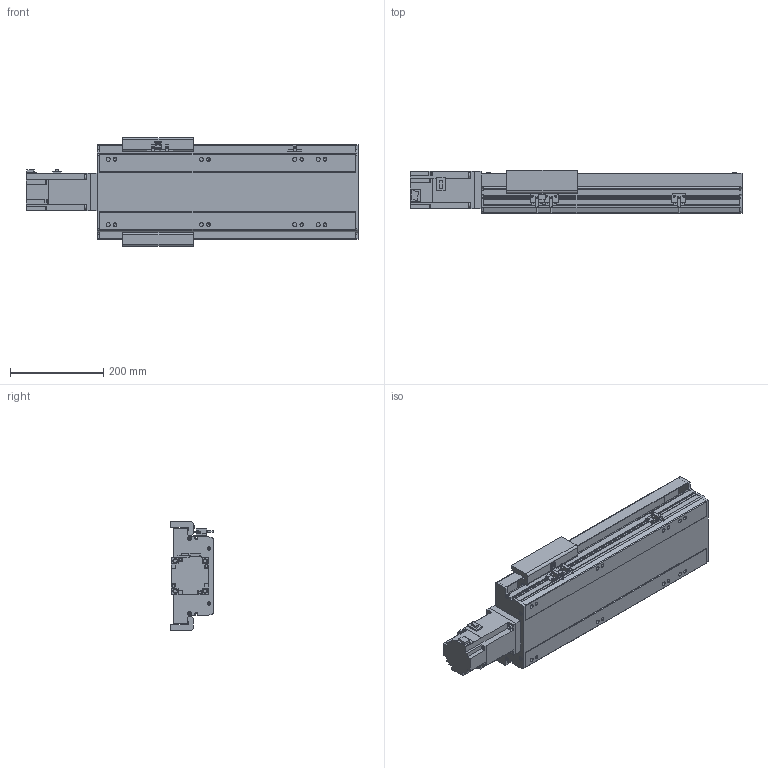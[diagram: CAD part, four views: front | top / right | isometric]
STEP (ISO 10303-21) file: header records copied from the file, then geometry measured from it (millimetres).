
FILE_DESCRIPTION(/* description */ ('STEP AP214'),/* implementation_level */ '2;1');
FILE_NAME(/* name */ 'PSM170-L10-S300-BC-T75-C1-N(0)',/* time_stamp */ '2022-06-13T03:23:53+02:00',/* author */ ('License CC BY-ND 4.0'),/* organization */ ('CADENAS'),/* preprocessor_version */ 'ST-DEVELOPER v18.102',/* originating_system */ 'PARTsolutions',/* authorisation */ ' ');
FILE_SCHEMA (('AUTOMOTIVE_DESIGN {1 0 10303 214 3 1 1}'));
Length unit declared in the file: millimetre
Products named in the file (8): PSM170-L10-S300-BC-T75-C1-N(0); PSM-Sensor; PSM140-S300-542.5; T75-p1; PSM170_body2; PSM170_body3; PSM170-S300_body1; PSM170-L10-S300-BC-T75-C1-N(0)_dummy
Assembly tree (11 placements, depth 2):
  PSM170-L10-S300-BC-T75-C1-N(0)
    PSM-Sensor  x3
    PSM140-S300-542.5  x3
    T75-p1
    PSM170_body2
    PSM170_body3
    PSM170-S300_body1
    PSM170-L10-S300-BC-T75-C1-N(0)_dummy
Bounding box: 711.3 x 92 x 233 mm (x, y, z)
Volume: 4555180 mm3; surface area: 858251.4 mm2
Topology: 10 solids, 10 shells, 1003 faces, 2670 edges, 1739 vertices
Faces by surface type: plane 644, cylinder 289, cone 56, torus 14
Full cylindrical faces by diameter (mm): 2.8 x3, 3.08 x1, 4.134 x4, 4.5 x12, 4.6 x3, 5.7 x2, 6 x9, 6.647 x16, 7 x8, 7.6 x4, 8 x8, 8.5 x8, 10 x4, 14 x8, 45 x1, 70 x1
Entity records: 26167 total; most frequent: CARTESIAN_POINT 4726, DIRECTION 4396, ORIENTED_EDGE 4204, EDGE_CURVE 2102, AXIS2_PLACEMENT_3D 1473, VERTEX_POINT 1466, LINE 1450, VECTOR 1450
